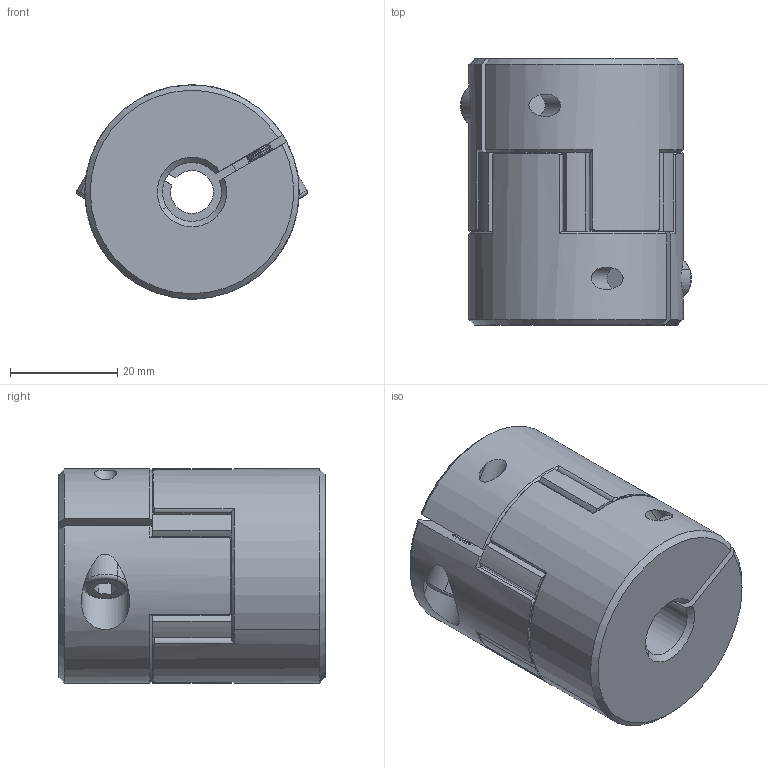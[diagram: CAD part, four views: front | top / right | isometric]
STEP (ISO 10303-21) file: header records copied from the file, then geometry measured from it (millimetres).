
FILE_DESCRIPTION (( 'STEP AP203' ), '1' );
FILE_NAME ('LF-B-D40L50-8-11.STEP', '2021-10-25T02:34:26', ( '' ), ( '' ), 'SwSTEP 2.0', 'SolidWorks 2018', '' );
FILE_SCHEMA (( 'CONFIG_CONTROL_DESIGN' ));
Length unit declared in the file: millimetre
Products named in the file (1): LF-B-D40L50-8-11
Bounding box: 43.11 x 49.7 x 40 mm (x, y, z)
Volume: 54285.1 mm3; surface area: 14644 mm2
Topology: 1 solids, 7 shells, 471 faces, 1117 edges, 662 vertices
Faces by surface type: cone 170, cylinder 169, plane 128, torus 4
Entity records: 13972 total; most frequent: CARTESIAN_POINT 2895, DIRECTION 2509, ORIENTED_EDGE 2226, EDGE_CURVE 1113, AXIS2_PLACEMENT_3D 1040, VERTEX_POINT 662, CIRCLE 568, EDGE_LOOP 487
